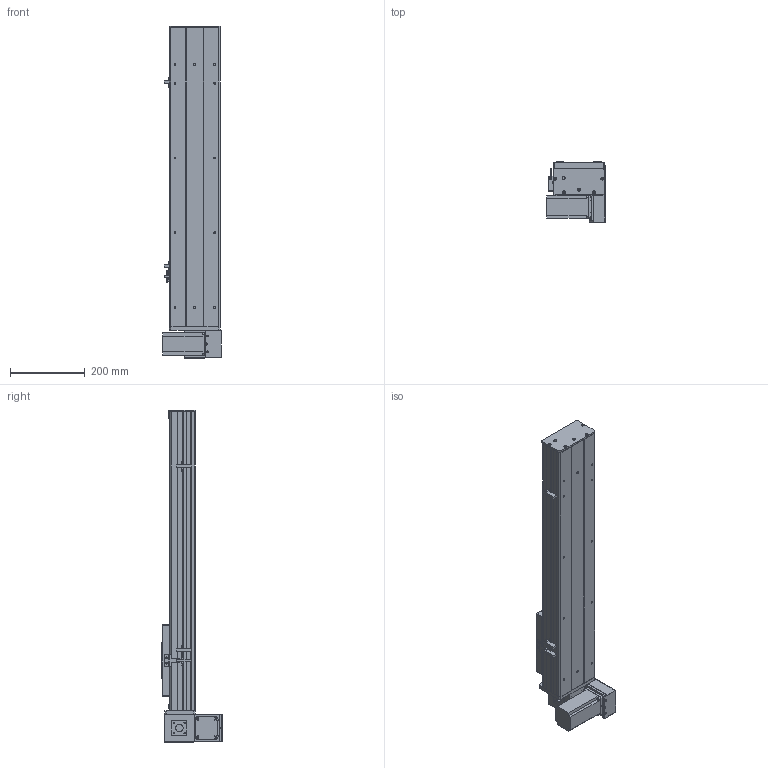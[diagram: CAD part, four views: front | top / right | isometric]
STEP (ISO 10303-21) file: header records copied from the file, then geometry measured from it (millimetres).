
FILE_DESCRIPTION (( 'STEP AP203' ), '1' );
FILE_NAME ('Y135CB-D90-S500-BM-P400W.STEP', '2020-02-18T09:19:09', ( '微软用户' ), ( '微软中国' ), 'SwSTEP 2.0', 'SolidWorks 2017', '' );
FILE_SCHEMA (( 'CONFIG_CONTROL_DESIGN' ));
Length unit declared in the file: millimetre
Products named in the file (18): Y100-135俋离換覜ん--; 35CB---喘謫眊楊擘啣; Y135C-陔俋离換覜結え-; 0B-埴倛裔啣; 5C--俋欶; 0B-源倛裔啣; C-雄赽釱--; 0B-萇儂楊擘啣; Y10B--々湍喘謫眊--666; san松下电机400不带刹车----; 00B-俋欶BM--; 5CB --掛极耜裔啣-; Y10B-耜蚾蟀諉啣----; C-詩湍揤踡え-陔; Y135CB-耜裔; Y135CB-D90-S500-BM-P400W; 135CB--詩湍-CE; 135CB---遴掛极.-
Assembly tree (21 placements, depth 2):
  Y135CB-D90-S500-BM-P400W
    Y135CB-耜裔
    135CB---遴掛极.-
    35CB---喘謫眊楊擘啣
    0B-埴倛裔啣
    0B-源倛裔啣
    0B-萇儂楊擘啣
    san松下电机400不带刹车----
    5CB --掛极耜裔啣-  x2
    C-詩湍揤踡え-陔  x2
    135CB--詩湍-CE
    Y100-135俋离換覜ん--  x3
    Y135C-陔俋离換覜結え-
    5C--俋欶
    C-雄赽釱--
    Y10B--々湍喘謫眊--666
    00B-俋欶BM--
    Y10B-耜蚾蟀諉啣----
Bounding box: 157 x 163.3 x 888 mm (x, y, z)
Volume: 3087883.2 mm3; surface area: 1195010.7 mm2
Topology: 21 solids, 21 shells, 937 faces, 2491 edges, 1650 vertices
Faces by surface type: cylinder 465, plane 456, cone 16
Entity records: 28945 total; most frequent: DIRECTION 4807, CARTESIAN_POINT 4724, ORIENTED_EDGE 4458, EDGE_CURVE 2229, AXIS2_PLACEMENT_3D 1749, VERTEX_POINT 1478, VECTOR 1309, LINE 1309
